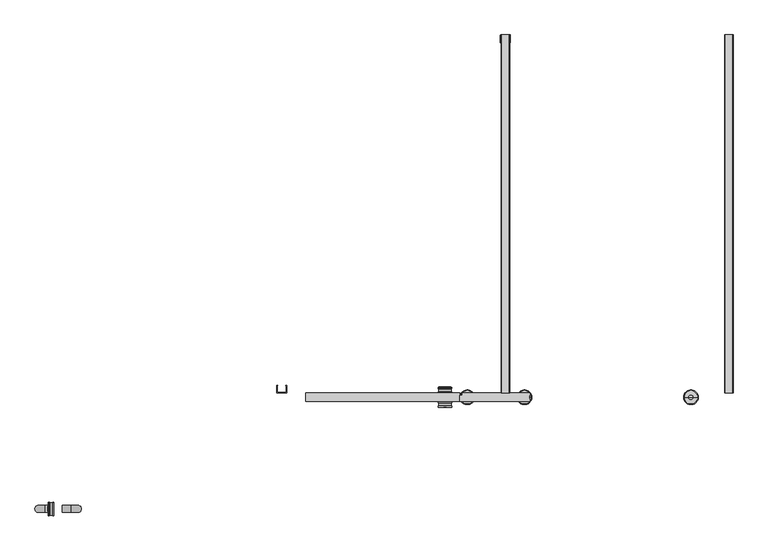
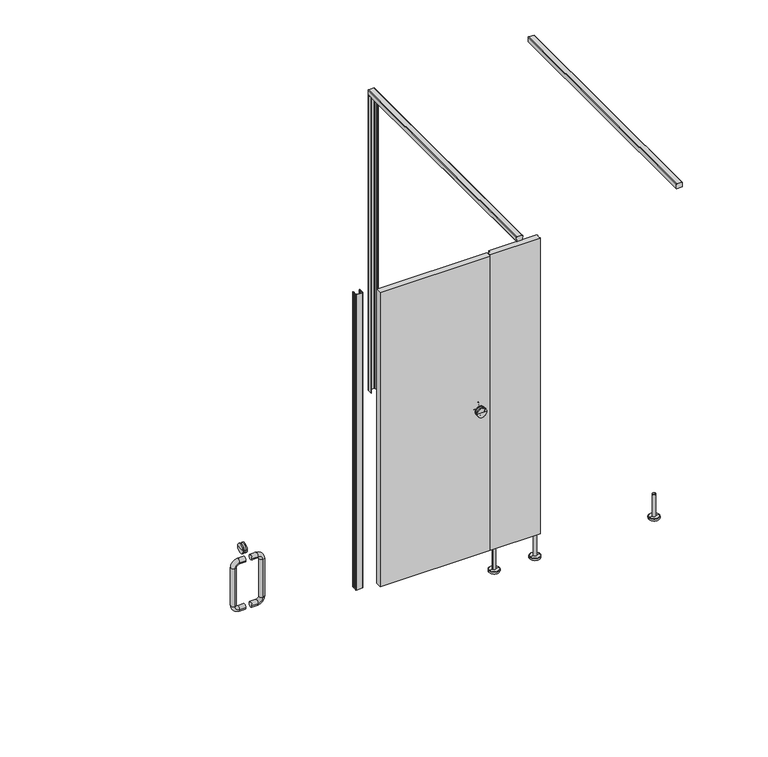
"""IFC4 building model written with IfcOpenShell, lengths in millimetres: proxy geometry, Partition_EuroStyle-Bradley_Corp-ADA_Alcove_4StandardStall-LOFT : Partition_EuroStyle-Bradley_Corp-ADA_Alcove_4StandardStall-LOFT."""

from ifc_helpers import new_model, si_unit, point, frame, frame_2d, origin, place, context, project, spatial, polyline, circle_curve, ellipse_curve, trimmed, segment, composite_curve, outline, extrude, source, transform, mapped, element, save
from ifc_brep_helpers import plane_surface, cylinder_surface, revolved_surface, advanced_brep


def specialty_equipment_d2a740d9(model_context):
    return source(origin(), model_context, "Body", "SolidModel", [
        advanced_brep(
        [(3558.7184936, -1541.9996549, 150.0000008), (3540.7184942, -1541.9996549, 150.0000008), (3540.7184942, -1541.9996549, 12.0000001), (3558.7184936, -1541.9996549, 12.0000001), (3549.7184939, -1541.9996549, 150.0000008), (3580.7184928, -1541.9996549, 0.0), (3518.7184949, -1541.9996549, 0.0), (3549.7184939, -1541.9996549, 0.0), (3580.7184928, -1541.9996549, 10.0000001), (3518.7184949, -1541.9996549, 10.0000001), (3578.7160809, -1541.9996549, 12.0000001), (3520.7209068, -1541.9996549, 12.0000001)],
        [
            (0, 1, circle_curve(frame((3549.7184939, -1541.9996549, 150.0000008), z_axis=(0.0, 0.0, -1.0), x_axis=(-1.0, 0.0, 0.0)), 8.9999997)),
            (1, 2),
            (2, 3, circle_curve(frame((3549.7184939, -1541.9996549, 12.0000001), z_axis=(0.0, 0.0, 1.0), x_axis=(-1.0, 0.0, 0.0)), 8.9999997)),
            (3, 0),
            (1, 0, circle_curve(frame((3549.7184939, -1541.9996549, 150.0000008), z_axis=(0.0, 0.0, -1.0), x_axis=(-1.0, 0.0, 0.0)), 8.9999997)),
            (3, 2, circle_curve(frame((3549.7184939, -1541.9996549, 12.0000001), z_axis=(0.0, 0.0, 1.0), x_axis=(-1.0, 0.0, 0.0)), 8.9999997)),
            (4, 1),
            (0, 4),
            (5, 6, circle_curve(frame((3549.7184939, -1541.9996549, 0.0), z_axis=(0.0, 0.0, -1.0), x_axis=(-1.0, 0.0, 0.0)), 30.9999989)),
            (6, 7),
            (7, 5),
            (6, 5, circle_curve(frame((3549.7184939, -1541.9996549, 0.0), z_axis=(0.0, 0.0, -1.0), x_axis=(-1.0, 0.0, 0.0)), 30.9999989)),
            (8, 9, circle_curve(frame((3549.7184939, -1541.9996549, 10.0000001), z_axis=(0.0, 0.0, -1.0), x_axis=(-1.0, 0.0, 0.0)), 30.9999989)),
            (9, 6),
            (5, 8),
            (9, 8, circle_curve(frame((3549.7184939, -1541.9996549, 10.0000001), z_axis=(0.0, 0.0, -1.0), x_axis=(-1.0, 0.0, 0.0)), 30.9999989)),
            (10, 11, circle_curve(frame((3549.7184939, -1541.9996549, 12.0000001), z_axis=(0.0, 0.0, -1.0), x_axis=(-1.0, 0.0, 0.0)), 28.997587)),
            (11, 9),
            (8, 10),
            (11, 10, circle_curve(frame((3549.7184939, -1541.9996549, 12.0000001), z_axis=(0.0, 0.0, -1.0), x_axis=(-1.0, 0.0, 0.0)), 28.997587)),
            (2, 11),
            (10, 3),
        ],
        [
            cylinder_surface(frame((3549.7184939, -1541.9996549, 0.0), z_axis=(0.0, 0.0, 1.0), x_axis=(-1.0, 0.0, 0.0)), 8.9999997),
            plane_surface(frame((3549.7184939, -1541.9996549, 150.0000008), z_axis=(0.0, 0.0, 1.0), x_axis=(-1.0, 0.0, 0.0))),
            plane_surface(frame((3549.7184939, -1541.9996549, 0.0), z_axis=(0.0, 0.0, -1.0), x_axis=(-1.0, 0.0, 0.0))),
            cylinder_surface(frame((3549.7184939, -1541.9996549, 0.0), z_axis=(0.0, 0.0, 1.0), x_axis=(-1.0, 0.0, 0.0)), 30.9999989),
            revolved_surface(polyline([(3518.7184949, -1541.9996549, 10.0000001), (3520.7209068, -1541.9996549, 12.0000001)]), (3549.7184939, -1541.9996549, 0.0), (0.0, 0.0, 1.0)),
            plane_surface(frame((3549.7184939, -1541.9996549, 12.0000001), z_axis=(0.0, 0.0, 1.0), x_axis=(-1.0, 0.0, 0.0))),
        ],
        [
            (0, [[1, 2, 3, 4]]),
            (0, [[5, -4, 6, -2]]),
            (1, [[7, -1, 8]]),
            (1, [[-8, -5, -7]]),
            (2, [[9, 10, 11]]),
            (2, [[12, -11, -10]]),
            (3, [[13, 14, -9, 15]]),
            (3, [[16, -15, -12, -14]]),
            (4, [[17, 18, -13, 19]]),
            (4, [[20, -19, -16, -18]]),
            (5, [[-3, 21, -17, 22]]),
            (5, [[-6, -22, -20, -21]]),
        ],
    ),
        extrude(outline(composite_curve([segment(polyline([(3285.5056686, -1523.9894923), (3571.7173386, -1523.9894923), (3571.7173386, -1525.9826232), (3572.8893041, -1525.9826232), (3573.817244, -1528.6775566)]), True, "CONTINUOUS"), segment(trimmed(circle_curve(frame_2d((3597.1302625, -1542.1248043)), 26.9132923), [point((3573.817244, -1528.6775566))], [point((3573.7373096, -1555.4325109))], True, "CARTESIAN"), True, "CONTINUOUS"), segment(polyline([(3573.7373096, -1555.4325109), (3572.79932, -1558.0096163), (3571.7173386, -1558.0096163), (3571.7173386, -1560.0098174), (3275.0953251, -1560.0098174), (3275.0953251, -1534.5993097), (3285.5056686, -1534.5993097), (3285.5056686, -1523.9894923)]), True, "CONTINUOUS")], self_intersect=False)), frame((0.0, 0.0, 150.0), z_axis=(0.0, 0.0, 1.0), x_axis=(1.0, 0.0, 0.0)), (0.0, 0.0, 1.0), 1855.0),
        extrude(outline(composite_curve([segment(polyline([(2032.9666591, 4400.6203701), (2005.7492965, 4401.0741806)]), True, "CONTINUOUS"), segment(trimmed(circle_curve(frame_2d((2005.762, 4401.8360747)), 0.762), [point((2005.7492965, 4401.0741806))], [point((2005.0, 4401.8360747))], False, "CARTESIAN"), True, "CONTINUOUS"), segment(polyline([(2005.0, 4401.8360747), (2005.0, 4435.3733505)]), True, "CONTINUOUS"), segment(trimmed(circle_curve(frame_2d((2005.79375, 4435.3733505)), 0.79375), [point((2005.0, 4435.3733505))], [point((2005.7805172, 4436.1669902))], False, "CARTESIAN"), True, "CONTINUOUS"), segment(polyline([(2005.7805172, 4436.1669902), (2032.9666591, 4436.6202802)]), True, "CONTINUOUS"), segment(trimmed(circle_curve(frame_2d((2033.0000015, 4434.6205597)), 1.9999985), [point((2032.9666591, 4436.6202802))], [point((2035.0, 4434.6205597))], False, "CARTESIAN"), True, "CONTINUOUS"), segment(polyline([(2035.0, 4434.6205597), (2035.0, 4402.6200907)]), True, "CONTINUOUS"), segment(trimmed(circle_curve(frame_2d((2033.0000015, 4402.6200907)), 1.9999985), [point((2035.0, 4402.6200907))], [point((2032.9666591, 4400.6203701))], False, "CARTESIAN"), True, "CONTINUOUS")], self_intersect=False)), frame((0.0, -1524.0, 0.0), z_axis=(0.0, 1.0, 0.0), x_axis=(0.0, 0.0, 1.0)), (0.0, 0.0, 1.0), 1524.0),
        advanced_brep(
        [(4248.2453255, -1541.9996549, 150.0000008), (4266.2453248, -1541.9996549, 150.0000008), (4266.2453248, -1541.9996549, 12.0000001), (4248.2453255, -1541.9996549, 12.0000001), (4257.2453251, -1541.9996549, 150.0000008), (4226.2453262, -1541.9996549, 0.0), (4288.2453241, -1541.9996549, 0.0), (4257.2453251, -1541.9996549, 0.0), (4226.2453262, -1541.9996549, 10.0000001), (4288.2453241, -1541.9996549, 10.0000001), (4228.2477381, -1541.9996549, 12.0000001), (4286.2429122, -1541.9996549, 12.0000001)],
        [
            (0, 1, circle_curve(frame((4257.2453251, -1541.9996549, 150.0000008), z_axis=(0.0, 0.0, -1.0), x_axis=(1.0, 0.0, 0.0)), 8.9999997)),
            (1, 2),
            (2, 3, circle_curve(frame((4257.2453251, -1541.9996549, 12.0000001), z_axis=(0.0, 0.0, 1.0), x_axis=(1.0, 0.0, 0.0)), 8.9999997)),
            (3, 0),
            (1, 0, circle_curve(frame((4257.2453251, -1541.9996549, 150.0000008), z_axis=(0.0, 0.0, -1.0), x_axis=(1.0, 0.0, 0.0)), 8.9999997)),
            (3, 2, circle_curve(frame((4257.2453251, -1541.9996549, 12.0000001), z_axis=(0.0, 0.0, 1.0), x_axis=(1.0, 0.0, 0.0)), 8.9999997)),
            (4, 1),
            (0, 4),
            (5, 6, circle_curve(frame((4257.2453251, -1541.9996549, 0.0), z_axis=(0.0, 0.0, -1.0), x_axis=(1.0, 0.0, 0.0)), 30.9999989)),
            (6, 7),
            (7, 5),
            (6, 5, circle_curve(frame((4257.2453251, -1541.9996549, 0.0), z_axis=(0.0, 0.0, -1.0), x_axis=(1.0, 0.0, 0.0)), 30.9999989)),
            (8, 9, circle_curve(frame((4257.2453251, -1541.9996549, 10.0000001), z_axis=(0.0, 0.0, -1.0), x_axis=(1.0, 0.0, 0.0)), 30.9999989)),
            (9, 6),
            (5, 8),
            (9, 8, circle_curve(frame((4257.2453251, -1541.9996549, 10.0000001), z_axis=(0.0, 0.0, -1.0), x_axis=(1.0, 0.0, 0.0)), 30.9999989)),
            (10, 11, circle_curve(frame((4257.2453251, -1541.9996549, 12.0000001), z_axis=(0.0, 0.0, -1.0), x_axis=(1.0, 0.0, 0.0)), 28.997587)),
            (11, 9),
            (8, 10),
            (11, 10, circle_curve(frame((4257.2453251, -1541.9996549, 12.0000001), z_axis=(0.0, 0.0, -1.0), x_axis=(1.0, 0.0, 0.0)), 28.997587)),
            (2, 11),
            (10, 3),
        ],
        [
            cylinder_surface(frame((4257.2453251, -1541.9996549, 0.0), z_axis=(0.0, 0.0, 1.0), x_axis=(1.0, 0.0, 0.0)), 8.9999997),
            plane_surface(frame((4257.2453251, -1541.9996549, 150.0000008), z_axis=(0.0, 0.0, 1.0), x_axis=(1.0, 0.0, 0.0))),
            plane_surface(frame((4257.2453251, -1541.9996549, 0.0), z_axis=(0.0, 0.0, -1.0), x_axis=(1.0, 0.0, 0.0))),
            cylinder_surface(frame((4257.2453251, -1541.9996549, 0.0), z_axis=(0.0, 0.0, 1.0), x_axis=(1.0, 0.0, 0.0)), 30.9999989),
            revolved_surface(polyline([(4288.2453241, -1541.9996549, 10.0000001), (4286.2429122, -1541.9996549, 12.0000001)]), (4257.2453251, -1541.9996549, 0.0), (0.0, 0.0, 1.0)),
            plane_surface(frame((4257.2453251, -1541.9996549, 12.0000001), z_axis=(0.0, 0.0, 1.0), x_axis=(1.0, 0.0, 0.0))),
        ],
        [
            (0, [[1, 2, 3, 4]]),
            (0, [[5, -4, 6, -2]]),
            (1, [[7, -1, 8]]),
            (1, [[-8, -5, -7]]),
            (2, [[9, 10, 11]]),
            (2, [[12, -11, -10]]),
            (3, [[13, 14, -9, 15]]),
            (3, [[16, -15, -12, -14]]),
            (4, [[17, 18, -13, 19]]),
            (4, [[20, -19, -16, -18]]),
            (5, [[-3, 21, -17, 22]]),
            (5, [[-6, -22, -20, -21]]),
        ],
    ),
        extrude(outline(composite_curve([segment(polyline([(2497.3288796, -1491.4999998), (2498.8274652, -1491.4999998)]), True, "CONTINUOUS"), segment(trimmed(circle_curve(frame_2d((2498.8238978, -1492.4990918)), 0.9990984), [point((2498.8274652, -1491.4999998))], [point((2499.2975504, -1493.3787798))], False, "CARTESIAN"), True, "CONTINUOUS"), segment(polyline([(2499.2975504, -1493.3787798), (2499.1764404, -1500.6424298)]), True, "CONTINUOUS"), segment(trimmed(circle_curve(frame_2d((2498.6588945, -1501.4999449)), 1.0015917), [point((2499.1764404, -1500.6424298))], [point((2499.1475604, -1502.3742398))], False, "CARTESIAN"), True, "CONTINUOUS"), segment(polyline([(2499.1475604, -1502.3742398), (2498.8535049, -1520.0104531)]), True, "CONTINUOUS"), segment(trimmed(circle_curve(frame_2d((2500.8536968, -1519.9997796)), 2.0002204), [point((2498.8535049, -1520.0104531))], [point((2500.8536968, -1522.0))], True, "CARTESIAN"), True, "CONTINUOUS"), segment(polyline([(2500.8536968, -1522.0), (2534.7379958, -1522.0)]), True, "CONTINUOUS"), segment(trimmed(circle_curve(frame_2d((2534.7870154, -1520.0009061)), 1.9996948), [point((2534.7379958, -1522.0))], [point((2536.78671, -1520.0))], True, "CARTESIAN"), True, "CONTINUOUS"), segment(polyline([(2536.78671, -1520.0), (2536.4926587, -1502.3739987)]), True, "CONTINUOUS"), segment(trimmed(circle_curve(frame_2d((2536.9817558, -1501.4999449)), 1.0015917), [point((2536.4926587, -1502.3739987))], [point((2536.4642099, -1500.6424298))], False, "CARTESIAN"), True, "CONTINUOUS"), segment(polyline([(2536.4642099, -1500.6424298), (2536.3430999, -1493.3787798)]), True, "CONTINUOUS"), segment(trimmed(circle_curve(frame_2d((2536.8167525, -1492.4990918)), 0.9990984), [point((2536.3430999, -1493.3787798))], [point((2536.8131851, -1491.4999998))], False, "CARTESIAN"), True, "CONTINUOUS"), segment(polyline([(2536.8131851, -1491.4999998), (2538.3117707, -1491.4999998), (2538.8201098, -1521.97082)]), True, "CONTINUOUS"), segment(trimmed(circle_curve(frame_2d((2536.7909298, -1521.97082)), 2.02918), [point((2538.8201098, -1521.97082))], [point((2536.7909298, -1524.0))], False, "CARTESIAN"), True, "CONTINUOUS"), segment(polyline([(2536.7909298, -1524.0), (2498.8497205, -1524.0)]), True, "CONTINUOUS"), segment(trimmed(circle_curve(frame_2d((2498.8497205, -1521.97082)), 2.02918), [point((2498.8497205, -1524.0))], [point((2496.8205405, -1521.97082))], False, "CARTESIAN"), True, "CONTINUOUS"), segment(polyline([(2496.8205405, -1521.97082), (2497.3288796, -1491.4999998)]), True, "CONTINUOUS")], self_intersect=False)), frame((0.0, 0.0, 150.0), z_axis=(0.0, 0.0, 1.0), x_axis=(1.0, 0.0, 0.0)), (0.0, 0.0, 1.0), 1855.0),
        advanced_brep(
        [(3182.8451766, -1524.0098174, 1050.0), (3239.9951766, -1524.0098174, 1050.0), (3211.4201766, -1524.0098174, 1050.0), (3182.8451766, -1519.2473174, 1050.0), (3239.9951766, -1519.2473174, 1050.0), (3182.8451766, -1500.1973174, 1050.0), (3239.9951766, -1500.1973174, 1050.0), (3239.9951766, -1504.9598174, 1050.0), (3182.8451766, -1504.9598174, 1050.0), (3238.4076766, -1506.5473174, 1050.0), (3184.4326766, -1506.5473174, 1050.0), (3238.4076766, -1517.6598174, 1050.0), (3184.4326766, -1517.6598174, 1050.0), (3211.4201766, -1498.6098174, 1050.0)],
        [
            (0, 1, circle_curve(frame((3211.4201766, -1524.0098174, 1050.0), z_axis=(0.0, -1.0, 0.0), x_axis=(1.0000000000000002, 0.0, 0.0)), 28.575)),
            (1, 2),
            (2, 0),
            (1, 0, circle_curve(frame((3211.4201766, -1524.0098174, 1050.0), z_axis=(0.0, -1.0, 0.0), x_axis=(1.0000000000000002, 0.0, 0.0)), 28.575)),
            (3, 4, circle_curve(frame((3211.4201766, -1519.2473174, 1050.0), z_axis=(0.0, -1.0, 0.0), x_axis=(1.0000000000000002, 0.0, 0.0)), 28.575)),
            (4, 1),
            (0, 3),
            (4, 3, circle_curve(frame((3211.4201766, -1519.2473174, 1050.0), z_axis=(0.0, -1.0, 0.0), x_axis=(1.0000000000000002, 0.0, 0.0)), 28.575)),
            (5, 6, circle_curve(frame((3211.4201766, -1500.1973174, 1050.0), z_axis=(0.0, -1.0, 0.0), x_axis=(1.0000000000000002, 0.0, 0.0)), 28.575)),
            (6, 7),
            (7, 8, circle_curve(frame((3211.4201766, -1504.9598174, 1050.0), z_axis=(0.0, 1.0, 0.0), x_axis=(1.0000000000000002, 0.0, 0.0)), 28.575)),
            (8, 5),
            (6, 5, circle_curve(frame((3211.4201766, -1500.1973174, 1050.0), z_axis=(0.0, -1.0, 0.0), x_axis=(1.0000000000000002, 0.0, 0.0)), 28.575)),
            (8, 7, circle_curve(frame((3211.4201766, -1504.9598174, 1050.0), z_axis=(0.0, 1.0, 0.0), x_axis=(1.0000000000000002, 0.0, 0.0)), 28.575)),
            (7, 9, circle_curve(frame((3239.9951766, -1506.5473174, 1050.0), z_axis=(0.0, 0.0, 1.0), x_axis=(1.0000000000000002, 0.0, 0.0)), 1.5875)),
            (9, 10, circle_curve(frame((3211.4201766, -1506.5473174, 1050.0), z_axis=(0.0, 1.0, 0.0), x_axis=(1.0000000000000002, 0.0, 0.0)), 26.9875)),
            (10, 8, circle_curve(frame((3182.8451766, -1506.5473174, 1050.0), z_axis=(0.0, 0.0, 1.0), x_axis=(-1.0000000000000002, 0.0, 0.0)), 1.5875)),
            (10, 9, circle_curve(frame((3211.4201766, -1506.5473174, 1050.0), z_axis=(0.0, 1.0, 0.0), x_axis=(1.0000000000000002, 0.0, 0.0)), 26.9875)),
            (9, 11),
            (11, 12, circle_curve(frame((3211.4201766, -1517.6598174, 1050.0), z_axis=(0.0, 1.0, 0.0), x_axis=(1.0000000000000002, 0.0, 0.0)), 26.9875)),
            (12, 10),
            (12, 11, circle_curve(frame((3211.4201766, -1517.6598174, 1050.0), z_axis=(0.0, 1.0, 0.0), x_axis=(1.0000000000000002, 0.0, 0.0)), 26.9875)),
            (11, 4, circle_curve(frame((3239.9951766, -1517.6598174, 1050.0), z_axis=(0.0, 0.0, 1.0), x_axis=(1.0000000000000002, 0.0, 0.0)), 1.5875)),
            (3, 12, circle_curve(frame((3182.8451766, -1517.6598174, 1050.0), z_axis=(0.0, 0.0, 1.0), x_axis=(-1.0000000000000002, 0.0, 0.0)), 1.5875)),
            (13, 6, circle_curve(frame((3215.1143, -1690.0843466, 1050.0), z_axis=(0.0, 0.0, -1.0), x_axis=(1.0000000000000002, 0.0, 0.0)), 191.5101613)),
            (5, 13, circle_curve(frame((3207.7260533, -1690.0843466, 1050.0), z_axis=(0.0, 0.0, -1.0), x_axis=(-1.0000000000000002, 0.0, 0.0)), 191.5101613)),
        ],
        [
            plane_surface(frame((3211.4201766, -1524.0098174, 1050.0), z_axis=(0.0, -1.0, 0.0), x_axis=(1.0, 0.0, 0.0))),
            cylinder_surface(frame((3211.4201766, -1524.0098174, 1050.0), z_axis=(0.0, 1.0000000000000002, 0.0), x_axis=(1.0000000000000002, 0.0, 0.0)), 28.575),
            revolved_surface(trimmed(ellipse_curve(frame((3239.9951766, -1506.5473174, 1050.0), z_axis=(0.0, 0.0, -1.0), x_axis=(1.0000000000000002, 0.0, 0.0)), 1.5875, 1.5875), [point((3238.4076766, -1506.5473174, 1050.0))], [point((3239.9951766, -1504.9598174, 1050.0))], True, "CARTESIAN"), (3211.4201766, -1524.0098174, 1050.0), (0.0, 1.0000000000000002, 0.0)),
            cylinder_surface(frame((3211.4201766, -1524.0098174, 1050.0), z_axis=(0.0, 1.0000000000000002, 0.0), x_axis=(1.0000000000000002, 0.0, 0.0)), 26.9875),
            revolved_surface(trimmed(ellipse_curve(frame((3239.9951766, -1517.6598174, 1050.0), z_axis=(0.0, 0.0, -1.0), x_axis=(1.0000000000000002, 0.0, 0.0)), 1.5875, 1.5875), [point((3239.9951766, -1519.2473174, 1050.0))], [point((3238.4076766, -1517.6598174, 1050.0))], True, "CARTESIAN"), (3211.4201766, -1524.0098174, 1050.0), (0.0, 1.0000000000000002, 0.0)),
            revolved_surface(trimmed(ellipse_curve(frame((3215.1143, -1690.0843466, 1050.0), z_axis=(0.0, 0.0, 1.0), x_axis=(1.0000000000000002, 0.0, 0.0)), 191.5101613, 191.5101613), [point((3239.9951766, -1500.1973174, 1050.0))], [point((3211.4201766, -1498.6098174, 1050.0))], True, "CARTESIAN"), (3211.4201766, -1524.0098174, 1050.0), (0.0, 1.0000000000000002, 0.0)),
        ],
        [
            (0, [[1, 2, 3]]),
            (0, [[4, -3, -2]]),
            (1, [[5, 6, -1, 7]]),
            (1, [[8, -7, -4, -6]]),
            (1, [[9, 10, 11, 12]]),
            (1, [[13, -12, 14, -10]]),
            (2, [[-11, 15, 16, 17]]),
            (2, [[-14, -17, 18, -15]]),
            (3, [[-16, 19, 20, 21]]),
            (3, [[-18, -21, 22, -19]]),
            (4, [[-20, 23, -5, 24]]),
            (4, [[-22, -24, -8, -23]]),
            (5, [[25, -9, 26]]),
            (5, [[-26, -13, -25]]),
        ],
    ),
        advanced_brep(
        [(3211.4201766, -1560.0098174, 1050.0), (3239.9951766, -1560.0098174, 1050.0), (3182.8451766, -1560.0098174, 1050.0), (3239.9951766, -1564.7723174, 1050.0), (3182.8451766, -1564.7723174, 1050.0), (3182.8451766, -1579.0598174, 1050.0), (3239.9951766, -1579.0598174, 1050.0), (3239.9951766, -1583.8223174, 1050.0), (3182.8451766, -1583.8223174, 1050.0), (3184.4326766, -1577.4723174, 1050.0), (3238.4076766, -1577.4723174, 1050.0), (3184.4326766, -1566.3598174, 1050.0), (3238.4076766, -1566.3598174, 1050.0), (3211.4201766, -1585.4098174, 1050.0)],
        [
            (0, 1),
            (1, 2, circle_curve(frame((3211.4201766, -1560.0098174, 1050.0), z_axis=(0.0, 1.0, 0.0), x_axis=(1.0000000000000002, 0.0, 0.0)), 28.575)),
            (2, 0),
            (2, 1, circle_curve(frame((3211.4201766, -1560.0098174, 1050.0), z_axis=(0.0, 1.0, 0.0), x_axis=(1.0000000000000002, 0.0, 0.0)), 28.575)),
            (1, 3),
            (3, 4, circle_curve(frame((3211.4201766, -1564.7723174, 1050.0), z_axis=(0.0, 1.0, 0.0), x_axis=(1.0000000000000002, 0.0, 0.0)), 28.575)),
            (4, 2),
            (4, 3, circle_curve(frame((3211.4201766, -1564.7723174, 1050.0), z_axis=(0.0, 1.0, 0.0), x_axis=(1.0000000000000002, 0.0, 0.0)), 28.575)),
            (5, 6, circle_curve(frame((3211.4201766, -1579.0598174, 1050.0), z_axis=(0.0, -1.0, 0.0), x_axis=(1.0000000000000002, 0.0, 0.0)), 28.575)),
            (6, 7),
            (7, 8, circle_curve(frame((3211.4201766, -1583.8223174, 1050.0), z_axis=(0.0, 1.0, 0.0), x_axis=(1.0000000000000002, 0.0, 0.0)), 28.575)),
            (8, 5),
            (6, 5, circle_curve(frame((3211.4201766, -1579.0598174, 1050.0), z_axis=(0.0, -1.0, 0.0), x_axis=(1.0000000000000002, 0.0, 0.0)), 28.575)),
            (8, 7, circle_curve(frame((3211.4201766, -1583.8223174, 1050.0), z_axis=(0.0, 1.0, 0.0), x_axis=(1.0000000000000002, 0.0, 0.0)), 28.575)),
            (9, 10, circle_curve(frame((3211.4201766, -1577.4723174, 1050.0), z_axis=(0.0, -1.0, 0.0), x_axis=(1.0000000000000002, 0.0, 0.0)), 26.9875)),
            (10, 6, circle_curve(frame((3239.9951766, -1577.4723174, 1050.0), z_axis=(0.0, 0.0, 1.0), x_axis=(1.0000000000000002, 0.0, 0.0)), 1.5875)),
            (5, 9, circle_curve(frame((3182.8451766, -1577.4723174, 1050.0), z_axis=(0.0, 0.0, 1.0), x_axis=(-1.0000000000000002, 0.0, 0.0)), 1.5875)),
            (10, 9, circle_curve(frame((3211.4201766, -1577.4723174, 1050.0), z_axis=(0.0, -1.0, 0.0), x_axis=(1.0000000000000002, 0.0, 0.0)), 26.9875)),
            (11, 12, circle_curve(frame((3211.4201766, -1566.3598174, 1050.0), z_axis=(0.0, -1.0, 0.0), x_axis=(1.0000000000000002, 0.0, 0.0)), 26.9875)),
            (12, 10),
            (9, 11),
            (12, 11, circle_curve(frame((3211.4201766, -1566.3598174, 1050.0), z_axis=(0.0, -1.0, 0.0), x_axis=(1.0000000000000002, 0.0, 0.0)), 26.9875)),
            (3, 12, circle_curve(frame((3239.9951766, -1566.3598174, 1050.0), z_axis=(0.0, 0.0, 1.0), x_axis=(1.0000000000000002, 0.0, 0.0)), 1.5875)),
            (11, 4, circle_curve(frame((3182.8451766, -1566.3598174, 1050.0), z_axis=(0.0, 0.0, 1.0), x_axis=(-1.0000000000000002, 0.0, 0.0)), 1.5875)),
            (7, 13, circle_curve(frame((3215.1143, -1393.9352882, 1050.0), z_axis=(0.0, 0.0, -1.0), x_axis=(1.0000000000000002, 0.0, 0.0)), 191.5101613)),
            (13, 8, circle_curve(frame((3207.7260533, -1393.9352882, 1050.0), z_axis=(0.0, 0.0, -1.0), x_axis=(-1.0000000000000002, 0.0, 0.0)), 191.5101613)),
        ],
        [
            plane_surface(frame((3211.4201766, -1560.0098174, 1050.0), z_axis=(0.0, 1.0, 0.0), x_axis=(1.0, 0.0, 0.0))),
            cylinder_surface(frame((3211.4201766, -1560.0098174, 1050.0), z_axis=(0.0, 1.0000000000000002, 0.0), x_axis=(1.0000000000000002, 0.0, 0.0)), 28.575),
            revolved_surface(trimmed(ellipse_curve(frame((3239.9951766, -1577.4723174, 1050.0), z_axis=(0.0, 0.0, -1.0), x_axis=(1.0000000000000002, 0.0, 0.0)), 1.5875, 1.5875), [point((3239.9951766, -1579.0598174, 1050.0))], [point((3238.4076766, -1577.4723174, 1050.0))], True, "CARTESIAN"), (3211.4201766, -1560.0098174, 1050.0), (0.0, 1.0000000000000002, 0.0)),
            cylinder_surface(frame((3211.4201766, -1560.0098174, 1050.0), z_axis=(0.0, 1.0000000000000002, 0.0), x_axis=(1.0000000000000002, 0.0, 0.0)), 26.9875),
            revolved_surface(trimmed(ellipse_curve(frame((3239.9951766, -1566.3598174, 1050.0), z_axis=(0.0, 0.0, -1.0), x_axis=(1.0000000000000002, 0.0, 0.0)), 1.5875, 1.5875), [point((3238.4076766, -1566.3598174, 1050.0))], [point((3239.9951766, -1564.7723174, 1050.0))], True, "CARTESIAN"), (3211.4201766, -1560.0098174, 1050.0), (0.0, 1.0000000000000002, 0.0)),
            revolved_surface(trimmed(ellipse_curve(frame((3215.1143, -1393.9352882, 1050.0), z_axis=(0.0, 0.0, 1.0), x_axis=(1.0000000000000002, 0.0, 0.0)), 191.5101613, 191.5101613), [point((3211.4201766, -1585.4098174, 1050.0))], [point((3239.9951766, -1583.8223174, 1050.0))], True, "CARTESIAN"), (3211.4201766, -1560.0098174, 1050.0), (0.0, 1.0000000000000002, 0.0)),
        ],
        [
            (0, [[1, 2, 3]]),
            (0, [[-3, 4, -1]]),
            (1, [[-2, 5, 6, 7]]),
            (1, [[-4, -7, 8, -5]]),
            (1, [[9, 10, 11, 12]]),
            (1, [[13, -12, 14, -10]]),
            (2, [[15, 16, -9, 17]]),
            (2, [[18, -17, -13, -16]]),
            (3, [[19, 20, -15, 21]]),
            (3, [[22, -21, -18, -20]]),
            (4, [[-6, 23, -19, 24]]),
            (4, [[-8, -24, -22, -23]]),
            (5, [[-11, 25, 26]]),
            (5, [[-14, -26, -25]]),
        ],
    ),
        extrude(outline(polyline([(2619.8170903, -1523.9894923), (3274.9201766, -1523.9894923), (3274.9201766, -1560.0098174), (2619.8170903, -1560.0098174), (2619.8170903, -1523.9894923)])), frame((0.0, 0.0, 150.0), z_axis=(0.0, 0.0, 1.0), x_axis=(1.0, 0.0, 0.0)), (0.0, 0.0, 1.0), 1846.0),
        extrude(outline(composite_curve([segment(polyline([(3447.7288796, -32.5000002), (3447.2205405, -2.02918)]), True, "CONTINUOUS"), segment(trimmed(circle_curve(frame_2d((3449.2497205, -2.02918)), 2.02918), [point((3447.2205405, -2.02918))], [point((3449.2497205, 0.0))], False, "CARTESIAN"), True, "CONTINUOUS"), segment(polyline([(3449.2497205, 0.0), (3487.1909298, 0.0)]), True, "CONTINUOUS"), segment(trimmed(circle_curve(frame_2d((3487.1909298, -2.02918)), 2.02918), [point((3487.1909298, 0.0))], [point((3489.2201098, -2.02918))], False, "CARTESIAN"), True, "CONTINUOUS"), segment(polyline([(3489.2201098, -2.02918), (3488.7117707, -32.5000002), (3487.2131851, -32.5000002)]), True, "CONTINUOUS"), segment(trimmed(circle_curve(frame_2d((3487.2167525, -31.5009082)), 0.9990984), [point((3487.2131851, -32.5000002))], [point((3486.7430999, -30.6212202))], False, "CARTESIAN"), True, "CONTINUOUS"), segment(polyline([(3486.7430999, -30.6212202), (3486.8642099, -23.3575702)]), True, "CONTINUOUS"), segment(trimmed(circle_curve(frame_2d((3487.3817558, -22.5000551)), 1.0015917), [point((3486.8642099, -23.3575702))], [point((3486.8926587, -21.6260013))], False, "CARTESIAN"), True, "CONTINUOUS"), segment(polyline([(3486.8926587, -21.6260013), (3487.18671, -4.0)]), True, "CONTINUOUS"), segment(trimmed(circle_curve(frame_2d((3485.1870154, -3.9990939)), 1.9996948), [point((3487.18671, -4.0))], [point((3485.1379958, -2.0))], True, "CARTESIAN"), True, "CONTINUOUS"), segment(polyline([(3485.1379958, -2.0), (3451.2536968, -2.0)]), True, "CONTINUOUS"), segment(trimmed(circle_curve(frame_2d((3451.2536968, -4.0002204)), 2.0002204), [point((3451.2536968, -2.0))], [point((3449.2535049, -3.9895469))], True, "CARTESIAN"), True, "CONTINUOUS"), segment(polyline([(3449.2535049, -3.9895469), (3449.5475604, -21.6257602)]), True, "CONTINUOUS"), segment(trimmed(circle_curve(frame_2d((3449.0588945, -22.5000551)), 1.0015917), [point((3449.5475604, -21.6257602))], [point((3449.5764404, -23.3575702))], False, "CARTESIAN"), True, "CONTINUOUS"), segment(polyline([(3449.5764404, -23.3575702), (3449.6975504, -30.6212202)]), True, "CONTINUOUS"), segment(trimmed(circle_curve(frame_2d((3449.2238978, -31.5009082)), 0.9990984), [point((3449.6975504, -30.6212202))], [point((3449.2274652, -32.5000002))], False, "CARTESIAN"), True, "CONTINUOUS"), segment(polyline([(3449.2274652, -32.5000002), (3447.7288796, -32.5000002)]), True, "CONTINUOUS")], self_intersect=False)), frame((0.0, 0.0, 150.0), z_axis=(0.0, 0.0, 1.0), x_axis=(1.0, 0.0, 0.0)), (0.0, 0.0, 1.0), 1855.0),
        extrude(outline(composite_curve([segment(polyline([(2032.9666591, 3450.2203701), (2005.7492965, 3450.6741806)]), True, "CONTINUOUS"), segment(trimmed(circle_curve(frame_2d((2005.762, 3451.4360747)), 0.762), [point((2005.7492965, 3450.6741806))], [point((2005.0, 3451.4360747))], False, "CARTESIAN"), True, "CONTINUOUS"), segment(polyline([(2005.0, 3451.4360747), (2005.0, 3484.9733505)]), True, "CONTINUOUS"), segment(trimmed(circle_curve(frame_2d((2005.79375, 3484.9733505)), 0.79375), [point((2005.0, 3484.9733505))], [point((2005.7805172, 3485.7669902))], False, "CARTESIAN"), True, "CONTINUOUS"), segment(polyline([(2005.7805172, 3485.7669902), (2032.9666591, 3486.2202802)]), True, "CONTINUOUS"), segment(trimmed(circle_curve(frame_2d((2033.0000015, 3484.2205597)), 1.9999985), [point((2032.9666591, 3486.2202802))], [point((2035.0, 3484.2205597))], False, "CARTESIAN"), True, "CONTINUOUS"), segment(polyline([(2035.0, 3484.2205597), (2035.0, 3452.2200907)]), True, "CONTINUOUS"), segment(trimmed(circle_curve(frame_2d((2033.0000015, 3452.2200907)), 1.9999985), [point((2035.0, 3452.2200907))], [point((2032.9666591, 3450.2203701))], False, "CARTESIAN"), True, "CONTINUOUS")], self_intersect=False)), frame((0.0, -1524.0, 0.0), z_axis=(0.0, 1.0, 0.0), x_axis=(0.0, 0.0, 1.0)), (0.0, 0.0, 1.0), 1524.0),
        advanced_brep(
        [(3297.8453255, -1541.9996549, 150.0000008), (3315.8453248, -1541.9996549, 150.0000008), (3315.8453248, -1541.9996549, 12.0000001), (3297.8453255, -1541.9996549, 12.0000001), (3306.8453251, -1541.9996549, 150.0000008), (3275.8453262, -1541.9996549, 0.0), (3337.8453241, -1541.9996549, 0.0), (3306.8453251, -1541.9996549, 0.0), (3275.8453262, -1541.9996549, 10.0000001), (3337.8453241, -1541.9996549, 10.0000001), (3277.8477381, -1541.9996549, 12.0000001), (3335.8429122, -1541.9996549, 12.0000001)],
        [
            (0, 1, circle_curve(frame((3306.8453251, -1541.9996549, 150.0000008), z_axis=(0.0, 0.0, -1.0), x_axis=(1.0, 0.0, 0.0)), 8.9999997)),
            (1, 2),
            (2, 3, circle_curve(frame((3306.8453251, -1541.9996549, 12.0000001), z_axis=(0.0, 0.0, 1.0), x_axis=(1.0, 0.0, 0.0)), 8.9999997)),
            (3, 0),
            (1, 0, circle_curve(frame((3306.8453251, -1541.9996549, 150.0000008), z_axis=(0.0, 0.0, -1.0), x_axis=(1.0, 0.0, 0.0)), 8.9999997)),
            (3, 2, circle_curve(frame((3306.8453251, -1541.9996549, 12.0000001), z_axis=(0.0, 0.0, 1.0), x_axis=(1.0, 0.0, 0.0)), 8.9999997)),
            (4, 1),
            (0, 4),
            (5, 6, circle_curve(frame((3306.8453251, -1541.9996549, 0.0), z_axis=(0.0, 0.0, -1.0), x_axis=(1.0, 0.0, 0.0)), 30.9999989)),
            (6, 7),
            (7, 5),
            (6, 5, circle_curve(frame((3306.8453251, -1541.9996549, 0.0), z_axis=(0.0, 0.0, -1.0), x_axis=(1.0, 0.0, 0.0)), 30.9999989)),
            (8, 9, circle_curve(frame((3306.8453251, -1541.9996549, 10.0000001), z_axis=(0.0, 0.0, -1.0), x_axis=(1.0, 0.0, 0.0)), 30.9999989)),
            (9, 6),
            (5, 8),
            (9, 8, circle_curve(frame((3306.8453251, -1541.9996549, 10.0000001), z_axis=(0.0, 0.0, -1.0), x_axis=(1.0, 0.0, 0.0)), 30.9999989)),
            (10, 11, circle_curve(frame((3306.8453251, -1541.9996549, 12.0000001), z_axis=(0.0, 0.0, -1.0), x_axis=(1.0, 0.0, 0.0)), 28.997587)),
            (11, 9),
            (8, 10),
            (11, 10, circle_curve(frame((3306.8453251, -1541.9996549, 12.0000001), z_axis=(0.0, 0.0, -1.0), x_axis=(1.0, 0.0, 0.0)), 28.997587)),
            (2, 11),
            (10, 3),
        ],
        [
            cylinder_surface(frame((3306.8453251, -1541.9996549, 0.0), z_axis=(0.0, 0.0, 1.0), x_axis=(1.0, 0.0, 0.0)), 8.9999997),
            plane_surface(frame((3306.8453251, -1541.9996549, 150.0000008), z_axis=(0.0, 0.0, 1.0), x_axis=(1.0, 0.0, 0.0))),
            plane_surface(frame((3306.8453251, -1541.9996549, 0.0), z_axis=(0.0, 0.0, -1.0), x_axis=(1.0, 0.0, 0.0))),
            cylinder_surface(frame((3306.8453251, -1541.9996549, 0.0), z_axis=(0.0, 0.0, 1.0), x_axis=(1.0, 0.0, 0.0)), 30.9999989),
            revolved_surface(polyline([(3337.8453241, -1541.9996549, 10.0000001), (3335.8429122, -1541.9996549, 12.0000001)]), (3306.8453251, -1541.9996549, 0.0), (0.0, 0.0, 1.0)),
            plane_surface(frame((3306.8453251, -1541.9996549, 12.0000001), z_axis=(0.0, 0.0, 1.0), x_axis=(1.0, 0.0, 0.0))),
        ],
        [
            (0, [[1, 2, 3, 4]]),
            (0, [[5, -4, 6, -2]]),
            (1, [[7, -1, 8]]),
            (1, [[-8, -5, -7]]),
            (2, [[9, 10, 11]]),
            (2, [[12, -11, -10]]),
            (3, [[13, 14, -9, 15]]),
            (3, [[16, -15, -12, -14]]),
            (4, [[17, 18, -13, 19]]),
            (4, [[20, -19, -16, -18]]),
            (5, [[-3, 21, -17, 22]]),
            (5, [[-6, -22, -20, -21]]),
        ],
    ),
        advanced_brep(
        [(1549.4, -2031.8, 975.0), (1549.4, -2001.8, 975.0), (1549.4, -2031.8, 679.0), (1549.4, -2001.8, 679.0), (1513.4, -2001.8, 975.0), (1513.4, -2031.8, 975.0), (1483.4, -2001.8, 945.0), (1483.4, -2001.8, 709.0), (1483.4, -2031.8, 709.0), (1483.4, -2031.8, 945.0), (1513.4, -2001.8, 679.0), (1513.4, -2031.8, 679.0)],
        [
            (0, 1, circle_curve(frame((1549.4, -2016.8, 975.0), z_axis=(1.0, 0.0, 0.0), x_axis=(0.0, 1.0, 0.0)), 15.0)),
            (1, 0, circle_curve(frame((1549.4, -2016.8, 975.0), z_axis=(1.0, 0.0, 0.0), x_axis=(0.0, 1.0, 0.0)), 15.0)),
            (2, 3, circle_curve(frame((1549.4, -2016.8, 679.0), z_axis=(1.0, 0.0, 0.0), x_axis=(0.0, 1.0, 0.0)), 15.0)),
            (3, 2, circle_curve(frame((1549.4, -2016.8, 679.0), z_axis=(1.0, 0.0, 0.0), x_axis=(0.0, 1.0, 0.0)), 15.0)),
            (1, 4),
            (4, 5, circle_curve(frame((1513.4, -2016.8, 975.0), z_axis=(1.0, 0.0, 0.0), x_axis=(0.0, 1.0, 0.0)), 15.0)),
            (5, 0),
            (5, 4, circle_curve(frame((1513.4, -2016.8, 975.0), z_axis=(1.0, 0.0, 0.0), x_axis=(0.0, 1.0, 0.0)), 15.0)),
            (6, 7),
            (7, 8, circle_curve(frame((1483.4, -2016.8, 709.0), z_axis=(0.0, 0.0, 1.0), x_axis=(0.0, 1.0, 0.0)), 15.0)),
            (8, 9),
            (9, 6, circle_curve(frame((1483.4, -2016.8, 945.0), z_axis=(0.0, 0.0, -1.0), x_axis=(0.0, 1.0, 0.0)), 15.0)),
            (8, 7, circle_curve(frame((1483.4, -2016.8, 709.0), z_axis=(0.0, 0.0, 1.0), x_axis=(0.0, 1.0, 0.0)), 15.0)),
            (6, 9, circle_curve(frame((1483.4, -2016.8, 945.0), z_axis=(0.0, 0.0, -1.0), x_axis=(0.0, 1.0, 0.0)), 15.0)),
            (10, 3),
            (2, 11),
            (11, 10, circle_curve(frame((1513.4, -2016.8, 679.0), z_axis=(1.0, 0.0, 0.0), x_axis=(0.0, 1.0, 0.0)), 15.0)),
            (10, 11, circle_curve(frame((1513.4, -2016.8, 679.0), z_axis=(1.0, 0.0, 0.0), x_axis=(0.0, 1.0, 0.0)), 15.0)),
            (9, 5, circle_curve(frame((1513.4, -2031.8, 945.0), z_axis=(0.0, 1.0, 0.0), x_axis=(0.0, 0.0, 1.0)), 30.0)),
            (4, 6, circle_curve(frame((1513.4, -2001.8, 945.0), z_axis=(0.0, -1.0, 0.0), x_axis=(0.0, 0.0, 1.0)), 30.0)),
            (11, 8, circle_curve(frame((1513.4, -2031.8, 709.0), z_axis=(0.0, 1.0, 0.0), x_axis=(-1.0, 0.0, 0.0)), 30.0)),
            (7, 10, circle_curve(frame((1513.4, -2001.8, 709.0), z_axis=(0.0, -1.0, 0.0), x_axis=(-1.0, 0.0, 0.0)), 30.0)),
        ],
        [
            plane_surface(frame((1549.4, -2016.8, 975.0), z_axis=(1.0, 0.0, 0.0), x_axis=(0.0, 1.0, 0.0))),
            plane_surface(frame((1549.4, -2016.8, 679.0), z_axis=(1.0, 0.0, 0.0), x_axis=(0.0, 1.0, 0.0))),
            cylinder_surface(frame((1549.4, -2016.8, 975.0), z_axis=(1.0, 0.0, 0.0), x_axis=(0.0, 1.0, 0.0)), 15.0),
            cylinder_surface(frame((1483.4, -2016.8, 945.0), z_axis=(0.0, 0.0, 1.0), x_axis=(0.0, 1.0, 0.0)), 15.0),
            cylinder_surface(frame((1513.4, -2016.8, 679.0), z_axis=(-1.0, 0.0, 0.0), x_axis=(0.0, 1.0, 0.0)), 15.0),
            revolved_surface(trimmed(ellipse_curve(frame((1513.4, -2016.8, 975.0), z_axis=(-1.0, 0.0, 0.0), x_axis=(0.0, 1.0, 0.0)), 15.0, 15.0), [point((1513.4, -2031.8, 975.0))], [point((1513.4, -2001.8, 975.0))], True, "CARTESIAN"), (1513.4, -2016.8, 945.0), (0.0, 1.0, 0.0)),
            revolved_surface(trimmed(ellipse_curve(frame((1513.4, -2016.8, 975.0), z_axis=(-1.0, 0.0, 0.0), x_axis=(0.0, 1.0, 0.0)), 15.0, 15.0), [point((1513.4, -2001.8, 975.0))], [point((1513.4, -2031.8, 975.0))], True, "CARTESIAN"), (1513.4, -2016.8, 945.0), (0.0, 1.0, 0.0)),
            revolved_surface(trimmed(ellipse_curve(frame((1483.4, -2016.8, 709.0), z_axis=(0.0, 0.0, -1.0), x_axis=(0.0, 1.0, 0.0)), 15.0, 15.0), [point((1483.4, -2031.8, 709.0))], [point((1483.4, -2001.8, 709.0))], True, "CARTESIAN"), (1513.4, -2016.8, 709.0), (0.0, 1.0, 0.0)),
            revolved_surface(trimmed(ellipse_curve(frame((1483.4, -2016.8, 709.0), z_axis=(0.0, 0.0, -1.0), x_axis=(0.0, 1.0, 0.0)), 15.0, 15.0), [point((1483.4, -2001.8, 709.0))], [point((1483.4, -2031.8, 709.0))], True, "CARTESIAN"), (1513.4, -2016.8, 709.0), (0.0, 1.0, 0.0)),
        ],
        [
            (0, [[1, 2]]),
            (1, [[3, 4]]),
            (2, [[5, 6, 7, -2]]),
            (2, [[-7, 8, -5, -1]]),
            (3, [[9, 10, 11, 12]]),
            (3, [[-11, 13, -9, 14]]),
            (4, [[15, -3, 16, 17]]),
            (4, [[-16, -4, -15, 18]]),
            (5, [[-12, 19, -6, 20]]),
            (6, [[-14, -20, -8, -19]]),
            (7, [[-17, 21, -10, 22]]),
            (8, [[-18, -22, -13, -21]]),
        ],
    ),
        advanced_brep(
        [(1585.4203251, -2031.8, 975.0), (1585.4203251, -2001.8, 975.0), (1585.4203251, -2031.8, 679.0), (1585.4203251, -2001.8, 679.0), (1621.4203251, -2031.8, 975.0), (1621.4203251, -2001.8, 975.0), (1651.4203251, -2001.8, 945.0), (1651.4203251, -2031.8, 945.0), (1651.4203251, -2031.8, 709.0), (1651.4203251, -2001.8, 709.0), (1621.4203251, -2001.8, 679.0), (1621.4203251, -2031.8, 679.0)],
        [
            (0, 1, circle_curve(frame((1585.4203251, -2016.8, 975.0), z_axis=(-1.0, 0.0, 0.0), x_axis=(0.0, 1.0, 0.0)), 15.0)),
            (1, 0, circle_curve(frame((1585.4203251, -2016.8, 975.0), z_axis=(-1.0, 0.0, 0.0), x_axis=(0.0, 1.0, 0.0)), 15.0)),
            (2, 3, circle_curve(frame((1585.4203251, -2016.8, 679.0), z_axis=(-1.0, 0.0, 0.0), x_axis=(0.0, 1.0, 0.0)), 15.0)),
            (3, 2, circle_curve(frame((1585.4203251, -2016.8, 679.0), z_axis=(-1.0, 0.0, 0.0), x_axis=(0.0, 1.0, 0.0)), 15.0)),
            (0, 4),
            (4, 5, circle_curve(frame((1621.4203251, -2016.8, 975.0), z_axis=(-1.0, 0.0, 0.0), x_axis=(0.0, 1.0, 0.0)), 15.0)),
            (5, 1),
            (5, 4, circle_curve(frame((1621.4203251, -2016.8, 975.0), z_axis=(-1.0, 0.0, 0.0), x_axis=(0.0, 1.0, 0.0)), 15.0)),
            (6, 7, circle_curve(frame((1651.4203251, -2016.8, 945.0), z_axis=(0.0, 0.0, -1.0), x_axis=(0.0, 1.0, 0.0)), 15.0)),
            (7, 8),
            (8, 9, circle_curve(frame((1651.4203251, -2016.8, 709.0), z_axis=(0.0, 0.0, 1.0), x_axis=(0.0, 1.0, 0.0)), 15.0)),
            (9, 6),
            (7, 6, circle_curve(frame((1651.4203251, -2016.8, 945.0), z_axis=(0.0, 0.0, -1.0), x_axis=(0.0, 1.0, 0.0)), 15.0)),
            (9, 8, circle_curve(frame((1651.4203251, -2016.8, 709.0), z_axis=(0.0, 0.0, 1.0), x_axis=(0.0, 1.0, 0.0)), 15.0)),
            (10, 11, circle_curve(frame((1621.4203251, -2016.8, 679.0), z_axis=(-1.0, 0.0, 0.0), x_axis=(0.0, 1.0, 0.0)), 15.0)),
            (11, 2),
            (3, 10),
            (11, 10, circle_curve(frame((1621.4203251, -2016.8, 679.0), z_axis=(-1.0, 0.0, 0.0), x_axis=(0.0, 1.0, 0.0)), 15.0)),
            (6, 5, circle_curve(frame((1621.4203251, -2001.8, 945.0), z_axis=(0.0, -1.0, 0.0), x_axis=(0.0, 0.0, 1.0)), 30.0)),
            (4, 7, circle_curve(frame((1621.4203251, -2031.8, 945.0), z_axis=(0.0, 1.0, 0.0), x_axis=(0.0, 0.0, 1.0)), 30.0)),
            (10, 9, circle_curve(frame((1621.4203251, -2001.8, 709.0), z_axis=(0.0, -1.0, 0.0), x_axis=(1.0, 0.0, 0.0)), 30.0)),
            (8, 11, circle_curve(frame((1621.4203251, -2031.8, 709.0), z_axis=(0.0, 1.0, 0.0), x_axis=(1.0, 0.0, 0.0)), 30.0)),
        ],
        [
            plane_surface(frame((1585.4203251, -2016.8, 975.0), z_axis=(-1.0, 0.0, 0.0), x_axis=(0.0, 1.0, 0.0))),
            plane_surface(frame((1585.4203251, -2016.8, 679.0), z_axis=(-1.0, 0.0, 0.0), x_axis=(0.0, 1.0, 0.0))),
            cylinder_surface(frame((1585.4203251, -2016.8, 975.0), z_axis=(-1.0, 0.0, 0.0), x_axis=(0.0, 1.0, 0.0)), 15.0),
            cylinder_surface(frame((1651.4203251, -2016.8, 945.0), z_axis=(0.0, 0.0, 1.0), x_axis=(0.0, 1.0, 0.0)), 15.0),
            cylinder_surface(frame((1621.4203251, -2016.8, 679.0), z_axis=(1.0, 0.0, 0.0), x_axis=(0.0, 1.0, 0.0)), 15.0),
            revolved_surface(trimmed(ellipse_curve(frame((1621.4203251, -2016.8, 975.0), z_axis=(-1.0, 0.0, 0.0), x_axis=(0.0, 1.0, 0.0)), 15.0, 15.0), [point((1621.4203251, -2031.8, 975.0))], [point((1621.4203251, -2001.8, 975.0))], True, "CARTESIAN"), (1621.4203251, -2016.8, 945.0), (0.0, 1.0, 0.0)),
            revolved_surface(trimmed(ellipse_curve(frame((1621.4203251, -2016.8, 975.0), z_axis=(-1.0, 0.0, 0.0), x_axis=(0.0, 1.0, 0.0)), 15.0, 15.0), [point((1621.4203251, -2001.8, 975.0))], [point((1621.4203251, -2031.8, 975.0))], True, "CARTESIAN"), (1621.4203251, -2016.8, 945.0), (0.0, 1.0, 0.0)),
            revolved_surface(trimmed(ellipse_curve(frame((1651.4203251, -2016.8, 709.0), z_axis=(0.0, 0.0, 1.0), x_axis=(0.0, 1.0, 0.0)), 15.0, 15.0), [point((1651.4203251, -2031.8, 709.0))], [point((1651.4203251, -2001.8, 709.0))], True, "CARTESIAN"), (1621.4203251, -2016.8, 709.0), (0.0, 1.0, 0.0)),
            revolved_surface(trimmed(ellipse_curve(frame((1651.4203251, -2016.8, 709.0), z_axis=(0.0, 0.0, 1.0), x_axis=(0.0, 1.0, 0.0)), 15.0, 15.0), [point((1651.4203251, -2001.8, 709.0))], [point((1651.4203251, -2031.8, 709.0))], True, "CARTESIAN"), (1621.4203251, -2016.8, 709.0), (0.0, 1.0, 0.0)),
        ],
        [
            (0, [[1, 2]]),
            (1, [[3, 4]]),
            (2, [[-1, 5, 6, 7]]),
            (2, [[-2, -7, 8, -5]]),
            (3, [[9, 10, 11, 12]]),
            (3, [[13, -12, 14, -10]]),
            (4, [[15, 16, -4, 17]]),
            (4, [[18, -17, -3, -16]]),
            (5, [[19, -6, 20, -9]]),
            (6, [[-20, -8, -19, -13]]),
            (7, [[21, -11, 22, -15]]),
            (8, [[-22, -14, -21, -18]]),
        ],
    ),
        advanced_brep(
        [(1549.4203251, -2045.375, 1050.0), (1549.4203251, -1988.225, 1050.0), (1549.4203251, -2016.8, 1050.0), (1544.6578251, -2045.375, 1050.0), (1544.6578251, -1988.225, 1050.0), (1525.6078251, -2045.375, 1050.0), (1525.6078251, -1988.225, 1050.0), (1530.3703251, -1988.225, 1050.0), (1530.3703251, -2045.375, 1050.0), (1531.9578251, -1989.8125, 1050.0), (1531.9578251, -2043.7875, 1050.0), (1543.0703251, -1989.8125, 1050.0), (1543.0703251, -2043.7875, 1050.0), (1524.0203251, -2016.8, 1050.0)],
        [
            (0, 1, circle_curve(frame((1549.4203251, -2016.8, 1050.0), z_axis=(1.0, 0.0, 0.0), x_axis=(0.0, 1.0, 0.0)), 28.575)),
            (1, 2),
            (2, 0),
            (1, 0, circle_curve(frame((1549.4203251, -2016.8, 1050.0), z_axis=(1.0, 0.0, 0.0), x_axis=(0.0, 1.0, 0.0)), 28.575)),
            (3, 4, circle_curve(frame((1544.6578251, -2016.8, 1050.0), z_axis=(1.0, 0.0, 0.0), x_axis=(0.0, 1.0, 0.0)), 28.575)),
            (4, 1),
            (0, 3),
            (4, 3, circle_curve(frame((1544.6578251, -2016.8, 1050.0), z_axis=(1.0, 0.0, 0.0), x_axis=(0.0, 1.0, 0.0)), 28.575)),
            (5, 6, circle_curve(frame((1525.6078251, -2016.8, 1050.0), z_axis=(1.0, 0.0, 0.0), x_axis=(0.0, 1.0, 0.0)), 28.575)),
            (6, 7),
            (7, 8, circle_curve(frame((1530.3703251, -2016.8, 1050.0), z_axis=(-1.0, 0.0, 0.0), x_axis=(0.0, 1.0, 0.0)), 28.575)),
            (8, 5),
            (6, 5, circle_curve(frame((1525.6078251, -2016.8, 1050.0), z_axis=(1.0, 0.0, 0.0), x_axis=(0.0, 1.0, 0.0)), 28.575)),
            (8, 7, circle_curve(frame((1530.3703251, -2016.8, 1050.0), z_axis=(-1.0, 0.0, 0.0), x_axis=(0.0, 1.0, 0.0)), 28.575)),
            (7, 9, circle_curve(frame((1531.9578251, -1988.225, 1050.0), z_axis=(0.0, 0.0, 1.0), x_axis=(0.0, 1.0, 0.0)), 1.5875)),
            (9, 10, circle_curve(frame((1531.9578251, -2016.8, 1050.0), z_axis=(-1.0, 0.0, 0.0), x_axis=(0.0, 1.0, 0.0)), 26.9875)),
            (10, 8, circle_curve(frame((1531.9578251, -2045.375, 1050.0), z_axis=(0.0, 0.0, 1.0), x_axis=(0.0, -1.0, 0.0)), 1.5875)),
            (10, 9, circle_curve(frame((1531.9578251, -2016.8, 1050.0), z_axis=(-1.0, 0.0, 0.0), x_axis=(0.0, 1.0, 0.0)), 26.9875)),
            (9, 11),
            (11, 12, circle_curve(frame((1543.0703251, -2016.8, 1050.0), z_axis=(-1.0, 0.0, 0.0), x_axis=(0.0, 1.0, 0.0)), 26.9875)),
            (12, 10),
            (12, 11, circle_curve(frame((1543.0703251, -2016.8, 1050.0), z_axis=(-1.0, 0.0, 0.0), x_axis=(0.0, 1.0, 0.0)), 26.9875)),
            (11, 4, circle_curve(frame((1543.0703251, -1988.225, 1050.0), z_axis=(0.0, 0.0, 1.0), x_axis=(0.0, 1.0, 0.0)), 1.5875)),
            (3, 12, circle_curve(frame((1543.0703251, -2045.375, 1050.0), z_axis=(0.0, 0.0, 1.0), x_axis=(0.0, -1.0, 0.0)), 1.5875)),
            (13, 6, circle_curve(frame((1715.4948544, -2013.1058766, 1050.0), z_axis=(0.0, 0.0, -1.0), x_axis=(0.0, 1.0, 0.0)), 191.5101613)),
            (5, 13, circle_curve(frame((1715.4948544, -2020.4941234, 1050.0), z_axis=(0.0, 0.0, -1.0), x_axis=(0.0, -1.0, 0.0)), 191.5101613)),
        ],
        [
            plane_surface(frame((1549.4203251, -2016.8, 1050.0), z_axis=(1.0, 0.0, 0.0), x_axis=(0.0, 1.0, 0.0))),
            cylinder_surface(frame((1549.4203251, -2016.8, 1050.0), z_axis=(-1.0, 0.0, 0.0), x_axis=(0.0, 1.0, 0.0)), 28.575),
            revolved_surface(trimmed(ellipse_curve(frame((1531.9578251, -1988.225, 1050.0), z_axis=(0.0, 0.0, -1.0), x_axis=(0.0, 1.0, 0.0)), 1.5875, 1.5875), [point((1531.9578251, -1989.8125, 1050.0))], [point((1530.3703251, -1988.225, 1050.0))], True, "CARTESIAN"), (1549.4203251, -2016.8, 1050.0), (-1.0, 0.0, 0.0)),
            cylinder_surface(frame((1549.4203251, -2016.8, 1050.0), z_axis=(-1.0, 0.0, 0.0), x_axis=(0.0, 1.0, 0.0)), 26.9875),
            revolved_surface(trimmed(ellipse_curve(frame((1543.0703251, -1988.225, 1050.0), z_axis=(0.0, 0.0, -1.0), x_axis=(0.0, 1.0, 0.0)), 1.5875, 1.5875), [point((1544.6578251, -1988.225, 1050.0))], [point((1543.0703251, -1989.8125, 1050.0))], True, "CARTESIAN"), (1549.4203251, -2016.8, 1050.0), (-1.0, 0.0, 0.0)),
            revolved_surface(trimmed(ellipse_curve(frame((1715.4948544, -2013.1058766, 1050.0), z_axis=(0.0, 0.0, 1.0), x_axis=(0.0, 1.0, 0.0)), 191.5101613, 191.5101613), [point((1525.6078251, -1988.225, 1050.0))], [point((1524.0203251, -2016.8, 1050.0))], True, "CARTESIAN"), (1549.4203251, -2016.8, 1050.0), (-1.0, 0.0, 0.0)),
        ],
        [
            (0, [[1, 2, 3]]),
            (0, [[4, -3, -2]]),
            (1, [[5, 6, -1, 7]]),
            (1, [[8, -7, -4, -6]]),
            (1, [[9, 10, 11, 12]]),
            (1, [[13, -12, 14, -10]]),
            (2, [[-11, 15, 16, 17]]),
            (2, [[-14, -17, 18, -15]]),
            (3, [[-16, 19, 20, 21]]),
            (3, [[-18, -21, 22, -19]]),
            (4, [[-20, 23, -5, 24]]),
            (4, [[-22, -24, -8, -23]]),
            (5, [[25, -9, 26]]),
            (5, [[-26, -13, -25]]),
        ],
    ),
    ])


if __name__ == "__main__":
    model = new_model("IFC4")
    model_context = context("Model", 3, world=origin())
    ifc_project = project(units=[si_unit("LENGTHUNIT", "METRE", prefix="MILLI")], contexts=[model_context])
    site = spatial("IfcSite", under=ifc_project)
    building = spatial("IfcBuilding", under=site)
    placement = place(None, origin())
    specialty_equipment_shape = specialty_equipment_d2a740d9(model_context)
    element("IfcBuildingElementProxy", 1, Name="Partition_EuroStyle-Bradley_Corp-ADA_Alcove_4StandardStall-LOFT : Partition_EuroStyle-Bradley_Corp-ADA_Alcove_4StandardStall-LOFT", ObjectType="Partition_EuroStyle-Bradley_Corp-ADA_Alcove_4StandardStall-LOFT : Partition_EuroStyle-Bradley_Corp-ADA_Alcove_4StandardStall-LOFT", at=placement, inside=building, context=model_context, shape_type="MappedRepresentation", body=[
        mapped(specialty_equipment_shape, transform((0.0, 0.0, 0.0), x_axis=(1.0, 0.0, 0.0), y_axis=(0.0, 1.0, 0.0), z_axis=(0.0, 0.0, 1.0))),
    ])
    save(model, "model.ifc")
